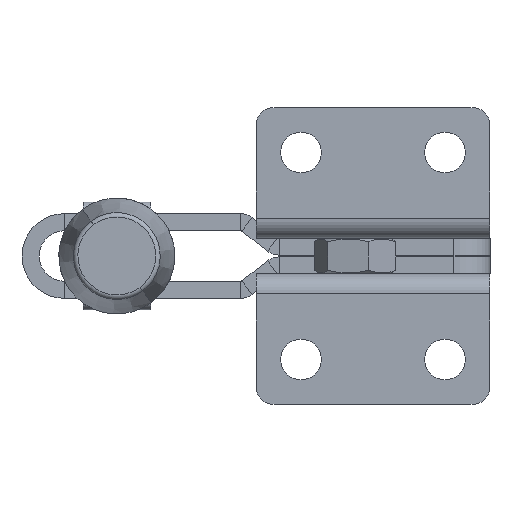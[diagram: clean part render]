
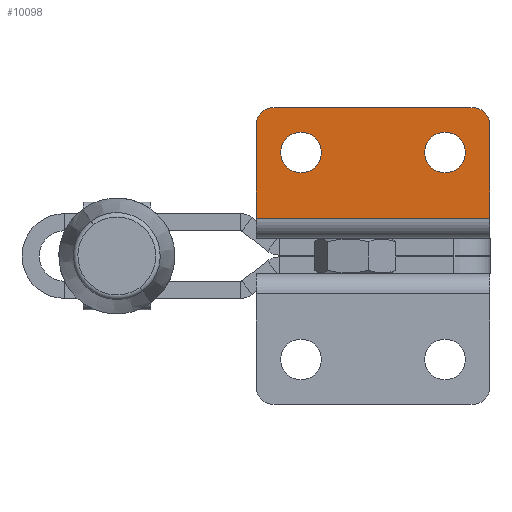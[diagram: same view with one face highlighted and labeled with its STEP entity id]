
A CAD part, front view. The second image highlights one B-rep face of the part: STEP entity #10098.
In plain terms, the highlighted planar face has unit normal (0, -1, 0).
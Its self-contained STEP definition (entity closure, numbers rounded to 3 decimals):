
#16 = CIRCLE ( 'NONE', #14707, 2. ) ;
#124 = EDGE_CURVE ( 'NONE', #8033, #18224, #16, .T. ) ;
#907 = EDGE_CURVE ( 'NONE', #18224, #19840, #9207, .T. ) ;
#1482 = DIRECTION ( 'NONE',  ( 0., -1., 0. ) ) ;
#1589 = LINE ( 'NONE', #5711, #14376 ) ;
#1941 = ORIENTED_EDGE ( 'NONE', *, *, #16429, .F. ) ;
#2197 = EDGE_CURVE ( 'NONE', #14478, #8253, #8384, .T. ) ;
#2219 = ORIENTED_EDGE ( 'NONE', *, *, #907, .T. ) ;
#2386 = AXIS2_PLACEMENT_3D ( 'NONE', #9469, #20648, #11056 ) ;
#2430 = FACE_BOUND ( 'NONE', #11000, .T. ) ;
#2472 = DIRECTION ( 'NONE',  ( 0., 0., 1. ) ) ;
#2663 = DIRECTION ( 'NONE',  ( 0., 0., 1. ) ) ;
#2680 = ORIENTED_EDGE ( 'NONE', *, *, #2197, .F. ) ;
#2936 = ORIENTED_EDGE ( 'NONE', *, *, #124, .T. ) ;
#4216 = VERTEX_POINT ( 'NONE', #17683 ) ;
#4298 = CARTESIAN_POINT ( 'NONE',  ( 21., 0., 7.25 ) ) ;
#4339 = CARTESIAN_POINT ( 'NONE',  ( 0., 0., 12.5 ) ) ;
#4489 = CARTESIAN_POINT ( 'NONE',  ( 21., 0., 9.5 ) ) ;
#4714 = CIRCLE ( 'NONE', #11092, 2. ) ;
#5711 = CARTESIAN_POINT ( 'NONE',  ( 0., 0., 0. ) ) ;
#5982 = DIRECTION ( 'NONE',  ( 0., -1., 0. ) ) ;
#6041 = VECTOR ( 'NONE', #6750, 1000. ) ;
#6132 = DIRECTION ( 'NONE',  ( 0., 0., -1. ) ) ;
#6206 = FACE_OUTER_BOUND ( 'NONE', #10711, .T. ) ;
#6627 = ORIENTED_EDGE ( 'NONE', *, *, #6863, .F. ) ;
#6632 = AXIS2_PLACEMENT_3D ( 'NONE', #13806, #13869, #15059 ) ;
#6691 = ORIENTED_EDGE ( 'NONE', *, *, #17652, .F. ) ;
#6750 = DIRECTION ( 'NONE',  ( -1., 0., 0. ) ) ;
#6863 = EDGE_CURVE ( 'NONE', #12805, #18170, #10294, .T. ) ;
#7950 = VERTEX_POINT ( 'NONE', #4298 ) ;
#8033 = VERTEX_POINT ( 'NONE', #14006 ) ;
#8253 = VERTEX_POINT ( 'NONE', #11148 ) ;
#8384 = CIRCLE ( 'NONE', #6632, 2.25 ) ;
#8507 = CARTESIAN_POINT ( 'NONE',  ( 24., 0., 14.5 ) ) ;
#8631 = ORIENTED_EDGE ( 'NONE', *, *, #18493, .T. ) ;
#8836 = EDGE_CURVE ( 'NONE', #19840, #16231, #4714, .T. ) ;
#8986 = EDGE_CURVE ( 'NONE', #8253, #14478, #14973, .T. ) ;
#9068 = CIRCLE ( 'NONE', #11339, 2.25 ) ;
#9165 = LINE ( 'NONE', #13853, #12898 ) ;
#9207 = LINE ( 'NONE', #11064, #17162 ) ;
#9469 = CARTESIAN_POINT ( 'NONE',  ( 5., 0., 9.5 ) ) ;
#10098 = ADVANCED_FACE ( 'NONE', ( #14670, #2430, #6206 ), #18724, .T. ) ;
#10294 = LINE ( 'NONE', #17890, #6041 ) ;
#10711 = EDGE_LOOP ( 'NONE', ( #2219, #15362, #6691, #6627, #8631, #2936 ) ) ;
#10743 = DIRECTION ( 'NONE',  ( 0., 0., -1. ) ) ;
#10891 = EDGE_LOOP ( 'NONE', ( #13961, #2680 ) ) ;
#11000 = EDGE_LOOP ( 'NONE', ( #11358, #1941 ) ) ;
#11056 = DIRECTION ( 'NONE',  ( 0., 0., -1. ) ) ;
#11064 = CARTESIAN_POINT ( 'NONE',  ( 26., 0., 14.5 ) ) ;
#11092 = AXIS2_PLACEMENT_3D ( 'NONE', #15526, #5982, #17161 ) ;
#11120 = CARTESIAN_POINT ( 'NONE',  ( 21., 0., 9.5 ) ) ;
#11148 = CARTESIAN_POINT ( 'NONE',  ( 5., 0., 11.75 ) ) ;
#11339 = AXIS2_PLACEMENT_3D ( 'NONE', #11120, #1482, #12752 ) ;
#11358 = ORIENTED_EDGE ( 'NONE', *, *, #17840, .F. ) ;
#11458 = DIRECTION ( 'NONE',  ( -1., 0., 0. ) ) ;
#12752 = DIRECTION ( 'NONE',  ( 0., 0., -1. ) ) ;
#12805 = VERTEX_POINT ( 'NONE', #17685 ) ;
#12898 = VECTOR ( 'NONE', #2663, 1000. ) ;
#13332 = CARTESIAN_POINT ( 'NONE',  ( 2., 0., 14.5 ) ) ;
#13806 = CARTESIAN_POINT ( 'NONE',  ( 5., 0., 9.5 ) ) ;
#13853 = CARTESIAN_POINT ( 'NONE',  ( 26., 0., 0. ) ) ;
#13869 = DIRECTION ( 'NONE',  ( 0., -1., 0. ) ) ;
#13961 = ORIENTED_EDGE ( 'NONE', *, *, #8986, .F. ) ;
#14006 = CARTESIAN_POINT ( 'NONE',  ( 26., 0., 12.5 ) ) ;
#14376 = VECTOR ( 'NONE', #2472, 1000. ) ;
#14478 = VERTEX_POINT ( 'NONE', #14770 ) ;
#14670 = FACE_BOUND ( 'NONE', #10891, .T. ) ;
#14707 = AXIS2_PLACEMENT_3D ( 'NONE', #16405, #16460, #16481 ) ;
#14770 = CARTESIAN_POINT ( 'NONE',  ( 5., 0., 7.25 ) ) ;
#14973 = CIRCLE ( 'NONE', #2386, 2.25 ) ;
#15059 = DIRECTION ( 'NONE',  ( 0., 0., -1. ) ) ;
#15362 = ORIENTED_EDGE ( 'NONE', *, *, #8836, .T. ) ;
#15526 = CARTESIAN_POINT ( 'NONE',  ( 2., 0., 12.5 ) ) ;
#15631 = CIRCLE ( 'NONE', #18324, 2.25 ) ;
#15676 = DIRECTION ( 'NONE',  ( 0., -1., 0. ) ) ;
#16231 = VERTEX_POINT ( 'NONE', #4339 ) ;
#16305 = CARTESIAN_POINT ( 'NONE',  ( 0., 0., 2.2 ) ) ;
#16405 = CARTESIAN_POINT ( 'NONE',  ( 24., 0., 12.5 ) ) ;
#16429 = EDGE_CURVE ( 'NONE', #7950, #4216, #9068, .T. ) ;
#16460 = DIRECTION ( 'NONE',  ( 0., -1., 0. ) ) ;
#16481 = DIRECTION ( 'NONE',  ( 0., 0., -1. ) ) ;
#16878 = AXIS2_PLACEMENT_3D ( 'NONE', #17114, #20345, #10743 ) ;
#17114 = CARTESIAN_POINT ( 'NONE',  ( 26., 0., 0. ) ) ;
#17161 = DIRECTION ( 'NONE',  ( 0., 0., -1. ) ) ;
#17162 = VECTOR ( 'NONE', #11458, 1000. ) ;
#17652 = EDGE_CURVE ( 'NONE', #18170, #16231, #1589, .T. ) ;
#17683 = CARTESIAN_POINT ( 'NONE',  ( 21., 0., 11.75 ) ) ;
#17685 = CARTESIAN_POINT ( 'NONE',  ( 26., 0., 2.2 ) ) ;
#17840 = EDGE_CURVE ( 'NONE', #4216, #7950, #15631, .T. ) ;
#17890 = CARTESIAN_POINT ( 'NONE',  ( 26., 0., 2.2 ) ) ;
#18170 = VERTEX_POINT ( 'NONE', #16305 ) ;
#18224 = VERTEX_POINT ( 'NONE', #8507 ) ;
#18324 = AXIS2_PLACEMENT_3D ( 'NONE', #4489, #15676, #6132 ) ;
#18493 = EDGE_CURVE ( 'NONE', #12805, #8033, #9165, .T. ) ;
#18724 = PLANE ( 'NONE',  #16878 ) ;
#19840 = VERTEX_POINT ( 'NONE', #13332 ) ;
#20345 = DIRECTION ( 'NONE',  ( 0., -1., 0. ) ) ;
#20648 = DIRECTION ( 'NONE',  ( 0., -1., 0. ) ) ;
